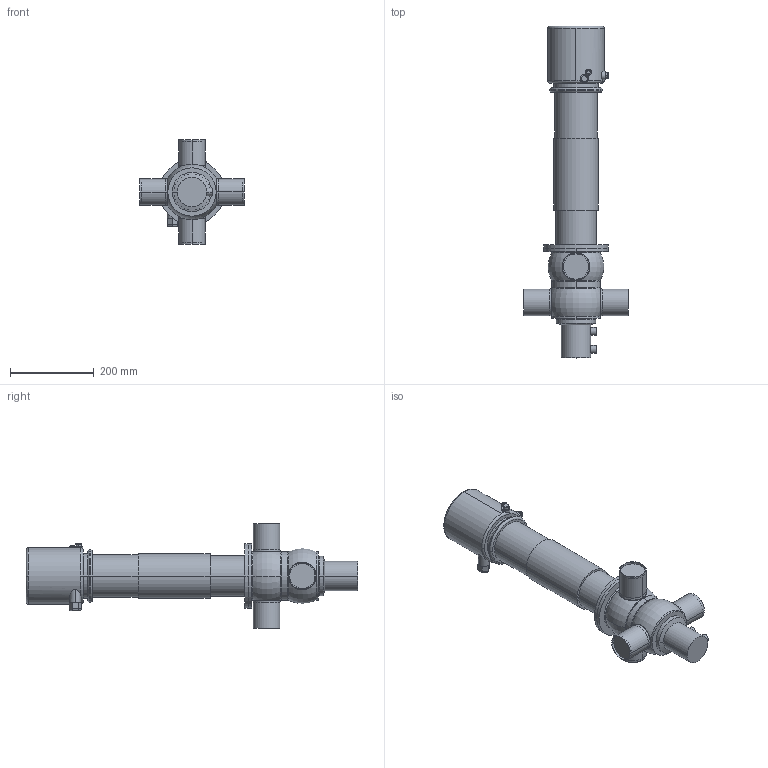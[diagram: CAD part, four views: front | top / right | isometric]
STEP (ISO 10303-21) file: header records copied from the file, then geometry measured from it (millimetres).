
FILE_DESCRIPTION(('Creo Elements/Direct Modeling STEP Export'),'2;1');
FILE_NAME('D44-2.5T_CU4.stp','2019-09-03T14:24:55',(''),(''),'PTC Creo Elements/Direct Modeling STEP processor for AP214 (Solid Model)','PTC Creo Elements/Direct Modeling 19.0B 21-Mar-2015 (C) Parametric Technology GmbH','');
FILE_SCHEMA(('AUTOMOTIVE_DESIGN { 1 0 10303 214 1 1 1 1 }'));
Length unit declared in the file: millimetre
Products named in the file (5): housing_D44-2.5T; CU41-D4; actuator_D4-100_yoke; drain_pipe-62; D44-2.5T_CU4
Assembly tree (4 placements, depth 2):
  D44-2.5T_CU4
    drain_pipe-62
    actuator_D4-100_yoke
    CU41-D4
    housing_D44-2.5T
Bounding box: 250 x 793.3 x 250 mm (x, y, z)
Volume: 8707626.3 mm3; surface area: 473220.3 mm2
Topology: 4 solids, 4 shells, 236 faces, 541 edges, 347 vertices
Faces by surface type: cylinder 98, plane 67, extrusion 33, torus 32, cone 6
Entity records: 13779 total; most frequent: CARTESIAN_POINT 8739, ORIENTED_EDGE 1082, DIRECTION 910, EDGE_CURVE 541, AXIS2_PLACEMENT_3D 356, VERTEX_POINT 347, EDGE_LOOP 270, FACE_OUTER_BOUND 236
